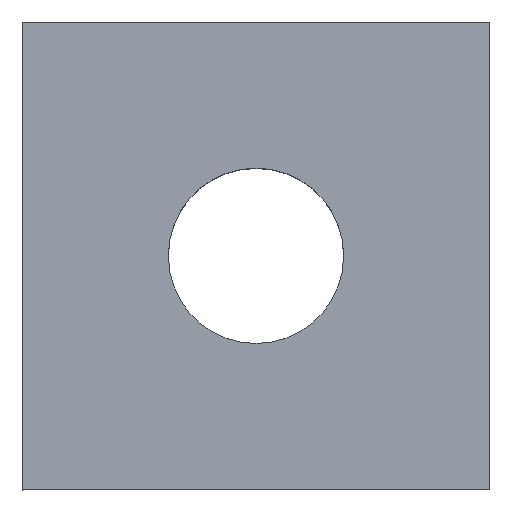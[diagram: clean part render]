
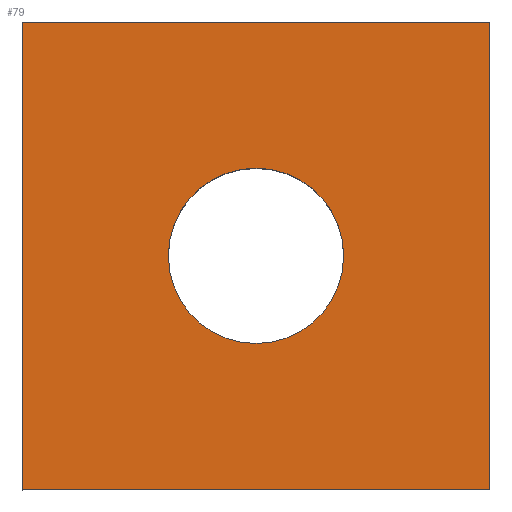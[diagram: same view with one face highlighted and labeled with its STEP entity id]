
A CAD part, top view. The second image highlights one B-rep face of the part: STEP entity #79.
In plain terms, the highlighted free-form (B-spline) face has degree [1, 1] with [2, 2] control points.
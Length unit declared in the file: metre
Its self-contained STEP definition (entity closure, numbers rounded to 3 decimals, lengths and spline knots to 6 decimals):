
#79 = ADVANCED_FACE( '', ( #93, #94 ), #95, .T. );
#93 = FACE_BOUND( '', #139, .T. );
#94 = FACE_OUTER_BOUND( '', #140, .T. );
#95 = B_SPLINE_SURFACE_WITH_KNOTS( '', 1, 1, ( ( #141, #142 ), ( #143, #144 ) ), .UNSPECIFIED., .F., .F., .F., ( 2, 2 ), ( 2, 2 ), ( 0., 1. ), ( 0., 1. ), .UNSPECIFIED. );
#139 = EDGE_LOOP( '', ( #170 ) );
#140 = EDGE_LOOP( '', ( #171, #172, #173, #174 ) );
#141 = CARTESIAN_POINT( '', ( 9.384736, 5.909379, 0.274162 ) );
#142 = CARTESIAN_POINT( '', ( 9.384736, 5.918179, 0.274162 ) );
#143 = CARTESIAN_POINT( '', ( 9.393536, 5.909379, 0.274162 ) );
#144 = CARTESIAN_POINT( '', ( 9.393536, 5.918179, 0.274162 ) );
#170 = ORIENTED_EDGE( '', *, *, #187, .F. );
#171 = ORIENTED_EDGE( '', *, *, #194, .T. );
#172 = ORIENTED_EDGE( '', *, *, #195, .T. );
#173 = ORIENTED_EDGE( '', *, *, #183, .T. );
#174 = ORIENTED_EDGE( '', *, *, #189, .T. );
#183 = EDGE_CURVE( '', #197, #198, #199, .T. );
#187 = EDGE_CURVE( '', #205, #205, #206, .T. );
#189 = EDGE_CURVE( '', #198, #209, #210, .T. );
#194 = EDGE_CURVE( '', #209, #217, #218, .T. );
#195 = EDGE_CURVE( '', #217, #197, #219, .T. );
#197 = VERTEX_POINT( '', #221 );
#198 = VERTEX_POINT( '', #222 );
#199 = LINE( '', #223, #224 );
#205 = VERTEX_POINT( '', #233 );
#206 = CIRCLE( '', #234, 0.0015 );
#209 = VERTEX_POINT( '', #237 );
#210 = LINE( '', #238, #239 );
#217 = VERTEX_POINT( '', #250 );
#218 = LINE( '', #251, #252 );
#219 = LINE( '', #253, #254 );
#221 = CARTESIAN_POINT( '', ( 9.393136, 5.909779, 0.274162 ) );
#222 = CARTESIAN_POINT( '', ( 9.393136, 5.917779, 0.274162 ) );
#223 = CARTESIAN_POINT( '', ( 9.393136, 5.913779, 0.274162 ) );
#224 = VECTOR( '', #257, 1. );
#233 = CARTESIAN_POINT( '', ( 9.390636, 5.913779, 0.274162 ) );
#234 = AXIS2_PLACEMENT_3D( '', #261, #262, #263 );
#237 = CARTESIAN_POINT( '', ( 9.385136, 5.917779, 0.274162 ) );
#238 = CARTESIAN_POINT( '', ( 9.389136, 5.917779, 0.274162 ) );
#239 = VECTOR( '', #267, 1. );
#250 = CARTESIAN_POINT( '', ( 9.385136, 5.909779, 0.274162 ) );
#251 = CARTESIAN_POINT( '', ( 9.385136, 5.913779, 0.274162 ) );
#252 = VECTOR( '', #272, 1. );
#253 = CARTESIAN_POINT( '', ( 9.389136, 5.909779, 0.274162 ) );
#254 = VECTOR( '', #273, 1. );
#257 = DIRECTION( '', ( 0., 1., 0. ) );
#261 = CARTESIAN_POINT( '', ( 9.389136, 5.913779, 0.274162 ) );
#262 = DIRECTION( '', ( 0., 0., 1. ) );
#263 = DIRECTION( '', ( 0., -1., 0. ) );
#267 = DIRECTION( '', ( -1., 0., 0. ) );
#272 = DIRECTION( '', ( 0., -1., 0. ) );
#273 = DIRECTION( '', ( 1., 0., 0. ) );
